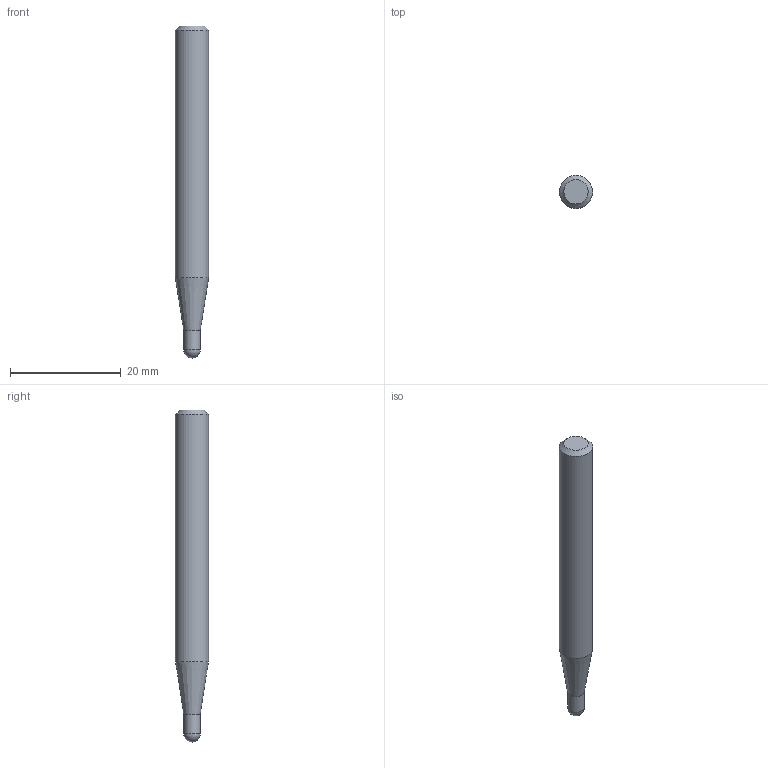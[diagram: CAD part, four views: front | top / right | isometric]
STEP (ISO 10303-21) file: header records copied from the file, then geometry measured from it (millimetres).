
FILE_DESCRIPTION((''),'2;1');
FILE_NAME('C:\Users\nsx150\AppData\Local\Temp\Mastercam 2021\J4S5TCIUH2\TEMP.step','2022-01-25T17:53:52',(''),(''),'STEP Write','Mastercam 2021 ... CNC Software, Inc.','');
FILE_SCHEMA(('AUTOMOTIVE_DESIGN'));
Length unit declared in the file: millimetre
Products named in the file (1): None
Bounding box: 6 x 6 x 60 mm (x, y, z)
Volume: 1469.8 mm3; surface area: 1073.6 mm2
Topology: 2 solids, 2 shells, 8 faces, 12 edges, 7 vertices
Faces by surface type: plane 3, cylinder 2, cone 2, sphere 1
Full cylindrical faces by diameter (mm): 3 x1, 6 x1
Entity records: 190 total; most frequent: DIRECTION 32, CARTESIAN_POINT 22, AXIS2_PLACEMENT_3D 16, ORIENTED_EDGE 12, EDGE_LOOP 12, STYLED_ITEM 11, ADVANCED_FACE 8, VERTEX_POINT 6
